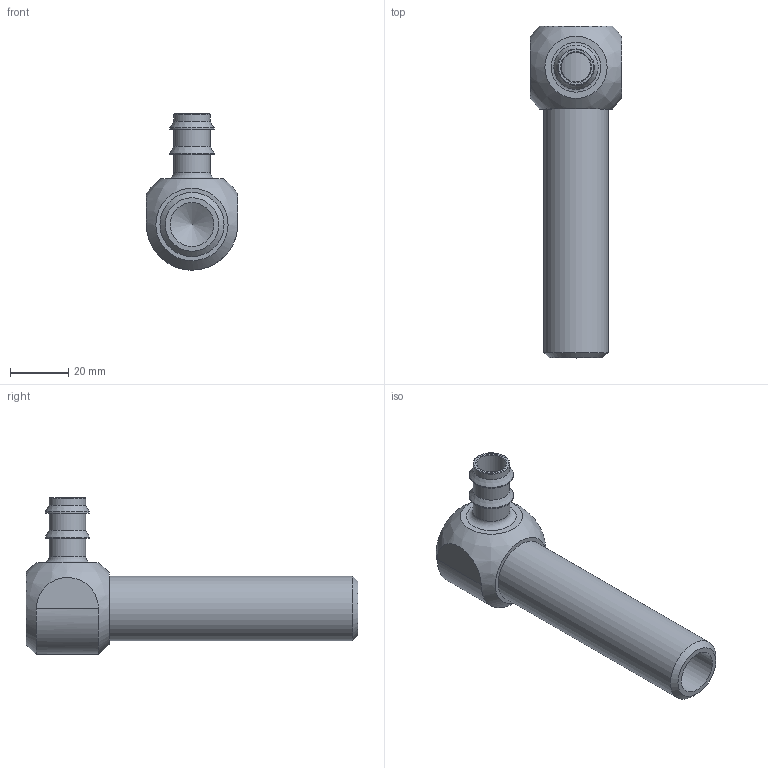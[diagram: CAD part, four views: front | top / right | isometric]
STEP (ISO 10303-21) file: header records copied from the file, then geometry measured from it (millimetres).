
FILE_DESCRIPTION(/* description */ (''),/* implementation_level */ '2;1');
FILE_NAME(/* name */ 'C:/Users/drich/Desktop/WJ50-L50 v1.step',/* time_stamp */ '2019-12-29T15:39:25-06:00',/* author */ (''),/* organization */ (''),/* preprocessor_version */ 'ST-DEVELOPER v18',/* originating_system */ 'Autodesk Translation Framework v8.12.0.6',/* authorisation */ '');
FILE_SCHEMA (('AUTOMOTIVE_DESIGN { 1 0 10303 214 3 1 1 }','MODEL_BASED_INTEGRATED_MANUFACTURING_SCHEMA'));
Length unit declared in the file: inch
Products named in the file (2): WJ50-L50; WJ50-L SHAFT
Assembly tree (1 placements, depth 2):
  WJ50-L50
    WJ50-L SHAFT
Bounding box: 31.39 x 114.3 x 53.79 mm (x, y, z)
Volume: 48994 mm3; surface area: 17514.9 mm2
Topology: 2 solids, 2 shells, 37 faces, 96 edges, 70 vertices
Faces by surface type: plane 18, cylinder 11, cone 4, torus 3, bspline 1
Full cylindrical faces by diameter (mm): 10.183 x1, 12.571 x3, 15.062 x1, 15.24 x2, 21.336 x1, 21.463 x1, 22.095 x1
Entity records: 1592 total; most frequent: CARTESIAN_POINT 571, DIRECTION 214, ORIENTED_EDGE 190, EDGE_CURVE 95, AXIS2_PLACEMENT_3D 90, VERTEX_POINT 70, CIRCLE 51, EDGE_LOOP 49
